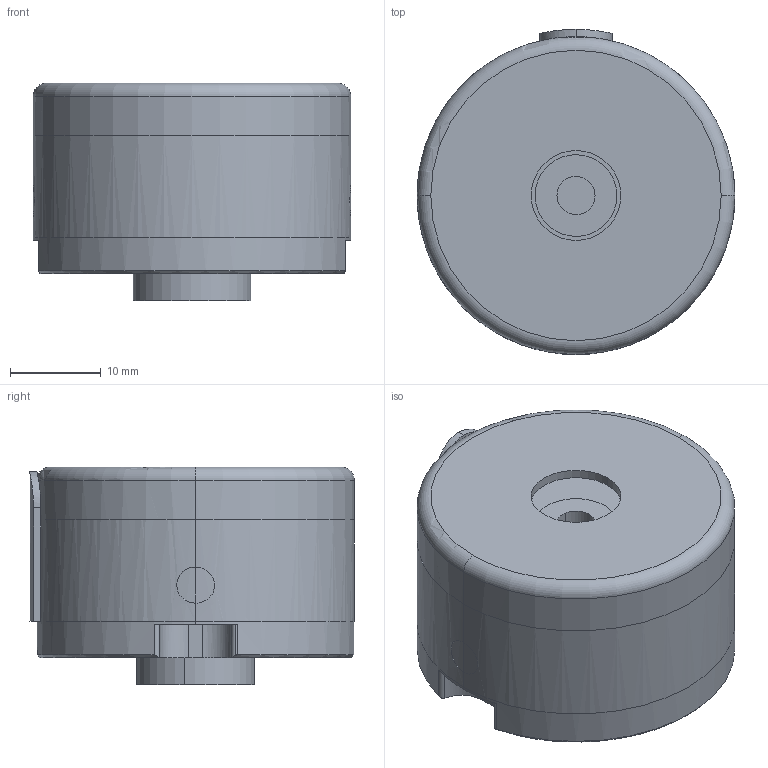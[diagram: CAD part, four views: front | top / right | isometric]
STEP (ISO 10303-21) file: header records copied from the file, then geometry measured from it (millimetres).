
FILE_DESCRIPTION (( 'STEP AP214' ), '1' );
FILE_NAME ('35蚾饜芞.STEP', '2024-06-29T02:59:52', ( '' ), ( '' ), 'SwSTEP 2.0', 'SolidWorks 2016', '' );
FILE_SCHEMA (( 'AUTOMOTIVE_DESIGN' ));
Length unit declared in the file: millimetre
Products named in the file (1): 35蚾饜芞
Bounding box: 35 x 35.8 x 24 mm (x, y, z)
Volume: 17698 mm3; surface area: 10340.2 mm2
Topology: 3 solids, 5 shells, 83 faces, 212 edges, 135 vertices
Faces by surface type: cylinder 45, plane 22, cone 10, bspline 4, torus 2
Entity records: 5860 total; most frequent: CARTESIAN_POINT 2978, ORIENTED_EDGE 416, DIRECTION 363, EDGE_CURVE 208, AXIS2_PLACEMENT_3D 144, VERTEX_POINT 135, EDGE_LOOP 93, UNCERTAINTY_MEASURE_WITH_UNIT 88
